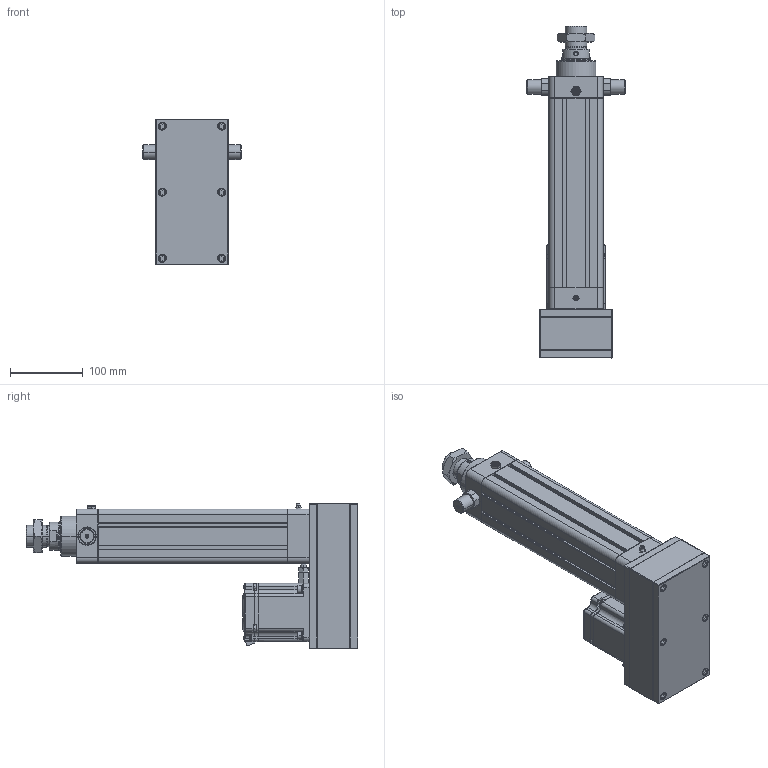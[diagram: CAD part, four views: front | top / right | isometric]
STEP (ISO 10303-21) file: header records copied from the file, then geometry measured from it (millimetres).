
FILE_DESCRIPTION((''),'2;1');
FILE_NAME('HE63-D-100-X1_ASM','2020-05-15T',('ASUS20200'),(''),'CREO PARAMETRIC BY PTC INC, 2014190','CREO PARAMETRIC BY PTC INC, 2014190','');
FILE_SCHEMA(('CONFIG_CONTROL_DESIGN'));
Length unit declared in the file: millimetre
Products named in the file (24): HE63-D-P-001-X1; HE63-D-P-002-X1; HE63-D-P-003-X1; LGLM-M8-22; SLM-01; YZ-M6X1; JDB405030; HE63-P-010-X1-80N; _MHMF082L1A2; MHMF082L1A2M2_1_ASM; JX6X6X25; HE63-P-012-X1; HE63-P-013-X1; M6X60; JM-M8; LM-M8-15; LM-M8X1-25; HE63-D-P-005-X1; HE63-D-P-004-X1; HE63-D-P-008-X1; TD-6; M6X25; HE63-TC; HE63-D-100-X1_ASM
Assembly tree (42 placements, depth 3):
  HE63-D-100-X1_ASM
    HE63-D-P-001-X1
    HE63-D-P-002-X1
    HE63-D-P-003-X1
    LGLM-M8-22  x8
    SLM-01
    YZ-M6X1
    JDB405030
    HE63-P-010-X1-80N
    MHMF082L1A2M2_1_ASM
      _MHMF082L1A2
    JX6X6X25
    HE63-P-012-X1
    HE63-P-013-X1
    M6X60  x6
    JM-M8
    LM-M8-15
    LM-M8X1-25
    HE63-D-P-005-X1
    HE63-D-P-004-X1
    HE63-D-P-008-X1
    TD-6  x4
    M6X25  x4
    HE63-TC  x2
Bounding box: 135 x 457 x 200.5 mm (x, y, z)
Volume: 2112323 mm3; surface area: 567848.6 mm2
Topology: 41 solids, 73 shells, 2419 faces, 5807 edges, 3566 vertices
Faces by surface type: plane 958, cylinder 691, cone 635, torus 102, sphere 30, bspline 3
Entity records: 57847 total; most frequent: CARTESIAN_POINT 11381, DIRECTION 10117, ORIENTED_EDGE 9158, EDGE_CURVE 4639, AXIS2_PLACEMENT_3D 3829, VERTEX_POINT 2860, VECTOR 2459, LINE 2459
